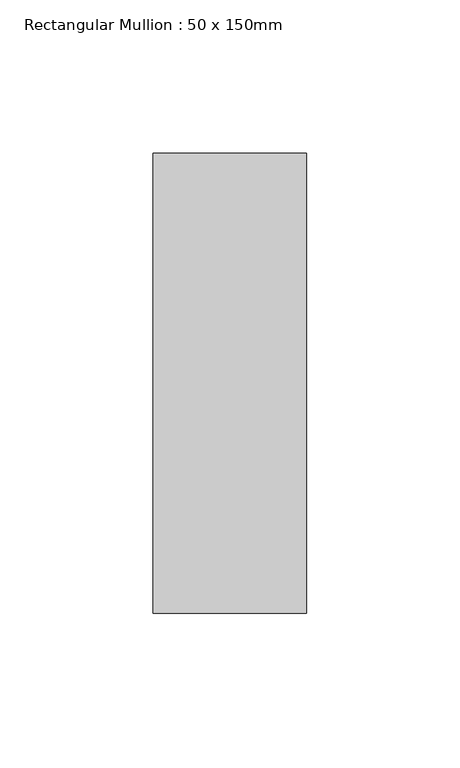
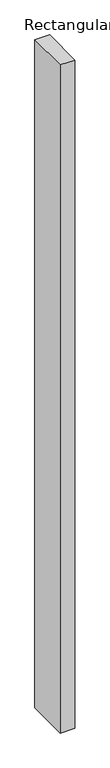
"""IFC4 building model written with IfcOpenShell, lengths in millimetres: member geometry, Rectangular Mullion : 50 x 150mm."""

from ifc_helpers import new_model, si_unit, frame, origin, place, context, project, spatial, polyline, outline, extrude, source, transform, mapped, element, save


def rectangular_mullion_50_x_150mm_236c09f6(model_context):
    return source(origin(), model_context, "Body", "SweptSolid", [
        extrude(outline(polyline([(25.0, 75.0), (25.0, -75.0), (-25.0, -75.0), (-25.0, 75.0), (25.0, 75.0)])), frame((0.0, 0.0, -2420.5969099), z_axis=(0.0, 0.0, 1.0), x_axis=(1.0, 0.0, 0.0)), (0.0, 0.0, 1.0), 2420.5969099),
    ])


if __name__ == "__main__":
    model = new_model("IFC4")
    model_context = context("Model", 3, world=origin())
    ifc_project = project(units=[si_unit("LENGTHUNIT", "METRE", prefix="MILLI")], contexts=[model_context])
    site = spatial("IfcSite", under=ifc_project)
    building = spatial("IfcBuilding", under=site)
    placement = place(None, origin())
    rectangular_mullion_50_x_150mm_shape = rectangular_mullion_50_x_150mm_236c09f6(model_context)
    element("IfcMember", 1, ObjectType="Rectangular Mullion : 50 x 150mm", at=placement, inside=building, context=model_context, shape_type="MappedRepresentation", body=[
        mapped(rectangular_mullion_50_x_150mm_shape, transform((0.0, 0.0, 0.0), x_axis=(1.0, 0.0, 0.0), y_axis=(0.0, 1.0, 0.0), z_axis=(0.0, 0.0, 1.0))),
    ])
    save(model, "model.ifc")
